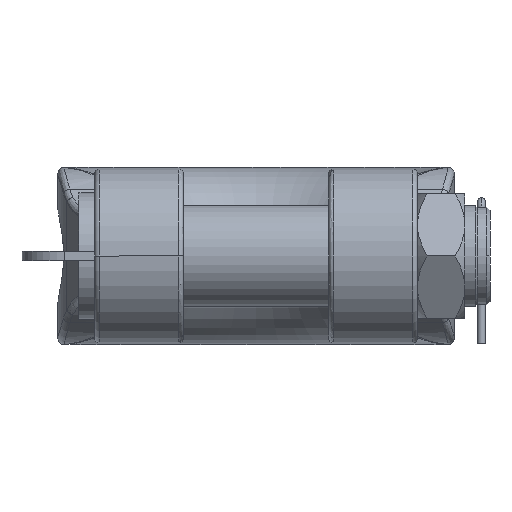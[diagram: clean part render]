
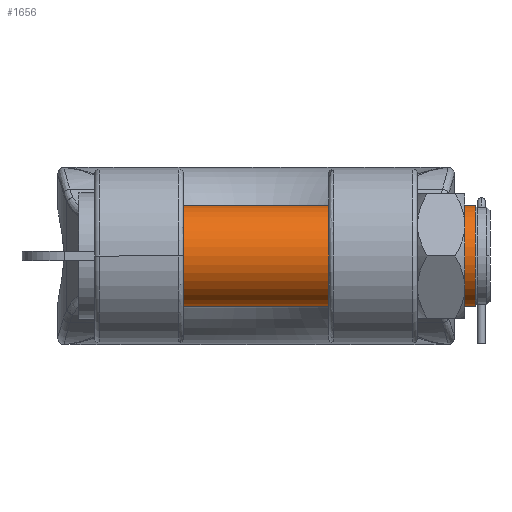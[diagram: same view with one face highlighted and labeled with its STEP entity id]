
A CAD part, front view. The second image highlights one B-rep face of the part: STEP entity #1656.
In plain terms, the highlighted cylindrical face has radius 160 mm (diameter 320 mm), a partial arc.
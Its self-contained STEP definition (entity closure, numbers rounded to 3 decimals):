
#1656=ADVANCED_FACE('NONE',(#3396),#3397,.T.);
#3396=FACE_OUTER_BOUND('',#52444,.T.);
#3397=CYLINDRICAL_SURFACE('',#52445,160.0);
#52444=EDGE_LOOP('',(#56634,#56635,#56636,#56637));
#52445=AXIS2_PLACEMENT_3D('',#56638,#56639,#56640);
#56634=ORIENTED_EDGE('',*,*,#59106,.T.);
#56635=ORIENTED_EDGE('',*,*,#59107,.T.);
#56636=ORIENTED_EDGE('',*,*,#59108,.T.);
#56637=ORIENTED_EDGE('',*,*,#59109,.F.);
#56638=CARTESIAN_POINT('',(-510.0,0.,0.));
#56639=DIRECTION('',(-1.0,0.,0.));
#56640=DIRECTION('',(0.,0.,1.0));
#59106=EDGE_CURVE('NONE',#61986,#61987,#61988,.T.);
#59107=EDGE_CURVE('NONE',#61987,#61989,#61990,.T.);
#59108=EDGE_CURVE('NONE',#61989,#61991,#61992,.T.);
#59109=EDGE_CURVE('NONE',#61986,#61991,#61993,.T.);
#61986=VERTEX_POINT('NONE',#82296);
#61987=VERTEX_POINT('NONE',#82297);
#61988=CIRCLE('',#82298,160.0);
#61989=VERTEX_POINT('NONE',#82299);
#61990=LINE('',#82300,#82301);
#61991=VERTEX_POINT('NONE',#82302);
#61992=CIRCLE('',#82303,160.0);
#61993=LINE('',#82304,#82305);
#82296=CARTESIAN_POINT('',(-506.0,0.,160.0));
#82297=CARTESIAN_POINT('',(-506.0,0.,-160.0));
#82298=AXIS2_PLACEMENT_3D('',#84563,#84564,#84565);
#82299=CARTESIAN_POINT('',(693.0,0.,-160.0));
#82300=CARTESIAN_POINT('',(-510.0,0.,-160.0));
#82301=VECTOR('',#84566,1000.0);
#82302=CARTESIAN_POINT('',(693.0,0.,160.0));
#82303=AXIS2_PLACEMENT_3D('',#84567,#84568,#84569);
#82304=CARTESIAN_POINT('',(-510.0,0.,160.0));
#82305=VECTOR('',#84570,1000.0);
#84563=CARTESIAN_POINT('',(-506.0,0.,0.));
#84564=DIRECTION('',(1.0,0.,0.));
#84565=DIRECTION('',(0.,0.,1.0));
#84566=DIRECTION('',(1.0,0.,0.));
#84567=CARTESIAN_POINT('',(693.0,0.,0.));
#84568=DIRECTION('',(-1.0,0.,0.));
#84569=DIRECTION('',(0.,0.,1.0));
#84570=DIRECTION('',(1.0,0.,0.));
